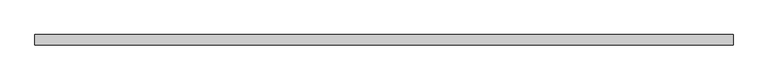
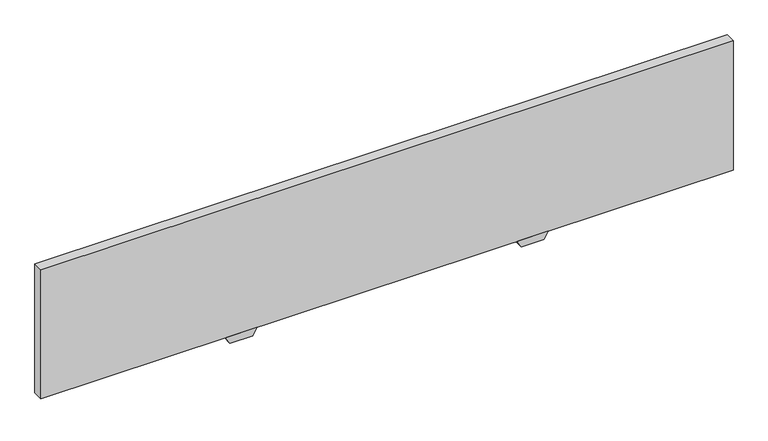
"""IFC4 building model written with IfcOpenShell, lengths in millimetres: proxy geometry."""

from ifc_helpers import new_model, si_unit, frame, origin, origin_with_axes, place, context, project, spatial, polyline, outline, extrude, source, transform, mapped, element, save


def specialty_equipment_2d2efd5c(model_context):
    return source(origin(), model_context, "Body", "SweptSolid", [
        extrude(outline(polyline([(0.0, 227.0125), (-12.7, 234.3448484), (-12.7, 273.6551516), (0.0, 280.9875), (0.0, 227.0125)])), frame((0.0, -9.017, 0.0), z_axis=(0.0, 1.0, 0.0), x_axis=(0.0, 0.0, 1.0)), (0.0, 0.0, 1.0), 18.034),
        extrude(outline(polyline([(0.0, -280.9875), (-12.7, -273.6551516), (-12.7, -234.3448484), (0.0, -227.0125), (0.0, -280.9875)])), frame((0.0, -9.017, 0.0), z_axis=(0.0, 1.0, 0.0), x_axis=(0.0, 0.0, 1.0)), (0.0, 0.0, 1.0), 18.034),
        extrude(outline(polyline([(-603.25, -9.017), (-603.25, 9.017), (603.25, 9.017), (603.25, -9.017), (-603.25, -9.017)])), origin_with_axes(), (0.0, 0.0, 1.0), 238.252),
    ])


if __name__ == "__main__":
    model = new_model("IFC4")
    model_context = context("Model", 3, world=origin())
    ifc_project = project(units=[si_unit("LENGTHUNIT", "METRE", prefix="MILLI")], contexts=[model_context])
    site = spatial("IfcSite", under=ifc_project)
    building = spatial("IfcBuilding", under=site)
    placement = place(None, origin())
    specialty_equipment_shape = specialty_equipment_2d2efd5c(model_context)
    element("IfcBuildingElementProxy", 1, Name="SE_TIMBER BAFFLE_SINGLE_FB_TURF : 47.5\" - GRIDLOCK", ObjectType="SE_TIMBER BAFFLE_SINGLE_FB_TURF : 47.5\" - GRIDLOCK", at=placement, inside=building, context=model_context, shape_type="MappedRepresentation", body=[
        mapped(specialty_equipment_shape, transform((0.0, 0.0, 0.0), x_axis=(1.0, 0.0, 0.0), y_axis=(0.0, 1.0, 0.0), z_axis=(0.0, 0.0, 1.0))),
    ])
    save(model, "model.ifc")
